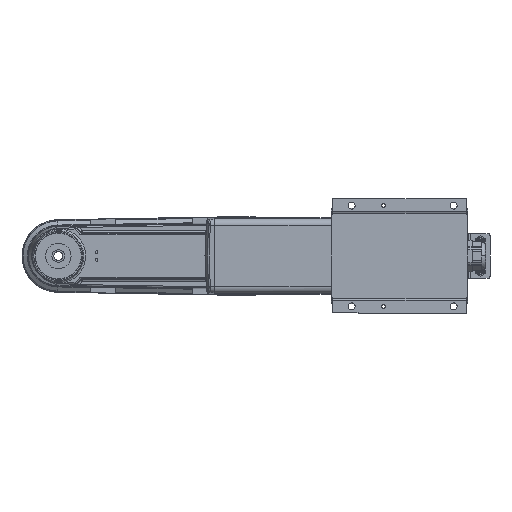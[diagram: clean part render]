
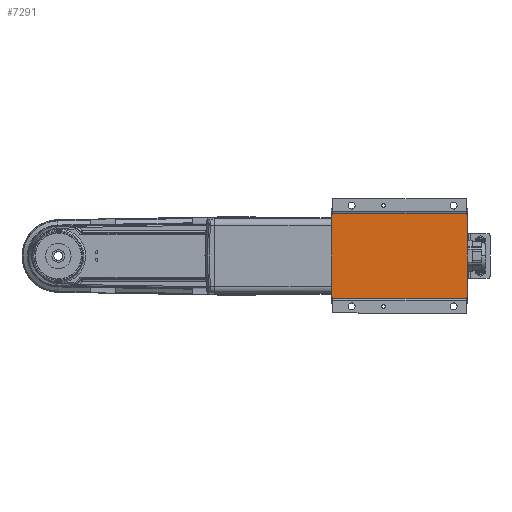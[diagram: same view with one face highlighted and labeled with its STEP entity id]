
A CAD part, front view. The second image highlights one B-rep face of the part: STEP entity #7291.
In plain terms, the highlighted planar face has unit normal (0, -1, 0).
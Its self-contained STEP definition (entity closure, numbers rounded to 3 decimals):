
#548=DIRECTION('',(0.,0.,1.));
#549=VECTOR('',#548,2.);
#550=CARTESIAN_POINT('',(140.,3.,-67.));
#551=LINE('',#550,#549);
#557=DIRECTION('',(0.,0.,1.));
#558=VECTOR('',#557,2.);
#559=CARTESIAN_POINT('',(140.,3.,65.));
#560=LINE('',#559,#558);
#639=DIRECTION('',(0.,0.,-1.));
#640=VECTOR('',#639,2.);
#641=CARTESIAN_POINT('',(-70.,3.,-65.));
#642=LINE('',#641,#640);
#694=DIRECTION('',(0.,0.,-1.));
#695=VECTOR('',#694,2.);
#696=CARTESIAN_POINT('',(-70.,3.,67.));
#697=LINE('',#696,#695);
#1018=DIRECTION('',(-1.,0.,0.));
#1019=VECTOR('',#1018,2.);
#1020=CARTESIAN_POINT('',(142.,3.,65.));
#1021=LINE('',#1020,#1019);
#1022=DIRECTION('',(0.,0.,-1.));
#1023=VECTOR('',#1022,130.);
#1024=CARTESIAN_POINT('',(142.,3.,65.));
#1025=LINE('',#1024,#1023);
#1026=DIRECTION('',(-1.,0.,0.));
#1027=VECTOR('',#1026,2.);
#1028=CARTESIAN_POINT('',(142.,3.,-65.));
#1029=LINE('',#1028,#1027);
#1030=DIRECTION('',(-1.,0.,0.));
#1031=VECTOR('',#1030,2.);
#1032=CARTESIAN_POINT('',(-70.,3.,-65.));
#1033=LINE('',#1032,#1031);
#1034=DIRECTION('',(0.,0.,1.));
#1035=VECTOR('',#1034,130.);
#1036=CARTESIAN_POINT('',(-72.,3.,-65.));
#1037=LINE('',#1036,#1035);
#1038=DIRECTION('',(1.,0.,0.));
#1039=VECTOR('',#1038,210.);
#1040=CARTESIAN_POINT('',(-70.,3.,67.));
#1041=LINE('',#1040,#1039);
#1046=DIRECTION('',(1.,0.,0.));
#1047=VECTOR('',#1046,210.);
#1048=CARTESIAN_POINT('',(-70.,3.,-67.));
#1049=LINE('',#1048,#1047);
#1191=DIRECTION('',(-1.,0.,0.));
#1192=VECTOR('',#1191,2.);
#1193=CARTESIAN_POINT('',(-70.,3.,65.));
#1194=LINE('',#1193,#1192);
#4700=CARTESIAN_POINT('',(-70.,3.,67.));
#4701=VERTEX_POINT('',#4700);
#4702=CARTESIAN_POINT('',(140.,3.,67.));
#4703=VERTEX_POINT('',#4702);
#4704=CARTESIAN_POINT('',(-70.,3.,-67.));
#4705=CARTESIAN_POINT('',(140.,3.,-67.));
#4706=VERTEX_POINT('',#4704);
#4707=VERTEX_POINT('',#4705);
#4782=CARTESIAN_POINT('',(-72.,3.,-65.));
#4784=VERTEX_POINT('',#4782);
#4816=CARTESIAN_POINT('',(-72.,3.,65.));
#4817=VERTEX_POINT('',#4816);
#4823=CARTESIAN_POINT('',(142.,3.,-65.));
#4825=VERTEX_POINT('',#4823);
#4826=CARTESIAN_POINT('',(142.,3.,65.));
#4827=VERTEX_POINT('',#4826);
#5720=CARTESIAN_POINT('',(-70.,3.,-65.));
#5722=VERTEX_POINT('',#5720);
#5724=CARTESIAN_POINT('',(-70.,3.,65.));
#5726=VERTEX_POINT('',#5724);
#5794=CARTESIAN_POINT('',(140.,3.,-65.));
#5796=VERTEX_POINT('',#5794);
#5798=CARTESIAN_POINT('',(140.,3.,65.));
#5800=VERTEX_POINT('',#5798);
#7269=CARTESIAN_POINT('',(35.,3.,0.));
#7270=DIRECTION('',(0.,1.,0.));
#7271=DIRECTION('',(0.,0.,-1.));
#7272=AXIS2_PLACEMENT_3D('',#7269,#7270,#7271);
#7273=PLANE('',#7272);
#7274=ORIENTED_EDGE('',*,*,#6508,.F.);
#7275=ORIENTED_EDGE('',*,*,#7257,.F.);
#7276=ORIENTED_EDGE('',*,*,#6334,.T.);
#7277=ORIENTED_EDGE('',*,*,#6448,.T.);
#7278=ORIENTED_EDGE('',*,*,#6483,.F.);
#7280=ORIENTED_EDGE('',*,*,#7279,.F.);
#7281=ORIENTED_EDGE('',*,*,#6653,.F.);
#7282=ORIENTED_EDGE('',*,*,#6719,.T.);
#7283=ORIENTED_EDGE('',*,*,#6768,.T.);
#7285=ORIENTED_EDGE('',*,*,#7284,.F.);
#7286=ORIENTED_EDGE('',*,*,#6698,.F.);
#7288=ORIENTED_EDGE('',*,*,#7287,.T.);
#7289=EDGE_LOOP('',(#7274,#7275,#7276,#7277,#7278,#7280,#7281,#7282,#7283,#7285,
#7286,#7288));
#7290=FACE_OUTER_BOUND('',#7289,.F.);
#6334=EDGE_CURVE('',#4827,#4825,#1025,.T.);
#6448=EDGE_CURVE('',#4825,#5796,#1029,.T.);
#6483=EDGE_CURVE('',#4707,#5796,#551,.T.);
#6508=EDGE_CURVE('',#5800,#4703,#560,.T.);
#6653=EDGE_CURVE('',#5722,#4706,#642,.T.);
#6698=EDGE_CURVE('',#4701,#5726,#697,.T.);
#6719=EDGE_CURVE('',#5722,#4784,#1033,.T.);
#6768=EDGE_CURVE('',#4784,#4817,#1037,.T.);
#7257=EDGE_CURVE('',#4827,#5800,#1021,.T.);
#7279=EDGE_CURVE('',#4706,#4707,#1049,.T.);
#7284=EDGE_CURVE('',#5726,#4817,#1194,.T.);
#7287=EDGE_CURVE('',#4701,#4703,#1041,.T.);
#7291=ADVANCED_FACE('',(#7290),#7273,.F.);
